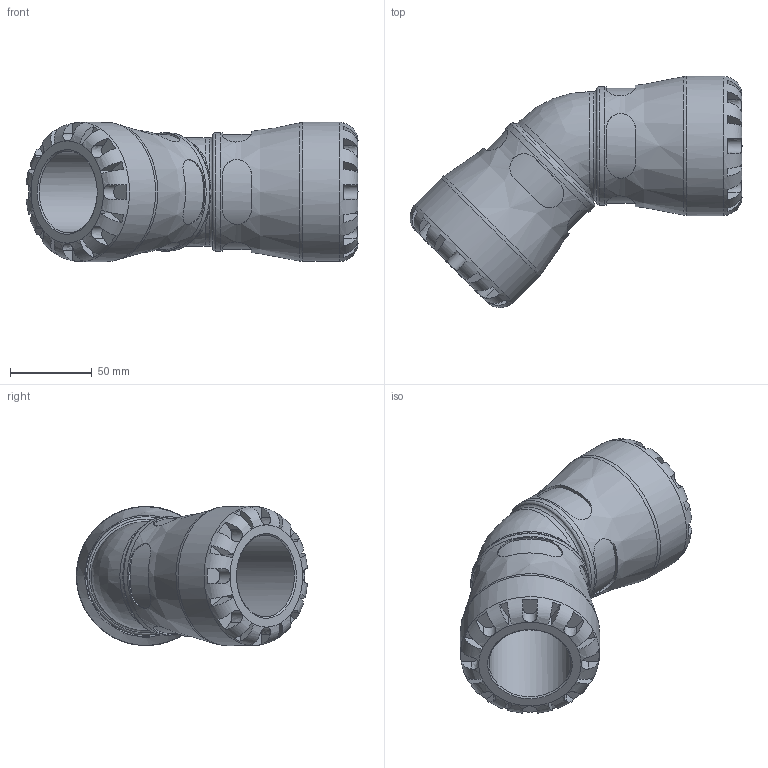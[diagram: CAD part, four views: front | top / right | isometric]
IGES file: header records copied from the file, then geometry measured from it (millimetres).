
Global section: file name: 150600050; native system: Autodesk Inventor 2019; preprocessor: unknown; author: KIM; date: 20231017.193703; units: millimetre
Bounding box: 202.74 x 141.24 x 85 mm (x, y, z)
Volume: 572674.1 mm3; surface area: 94645.2 mm2
Topology: 1 solids, 1 shells, 196 faces, 524 edges, 336 vertices
Faces by surface type: bspline 196
